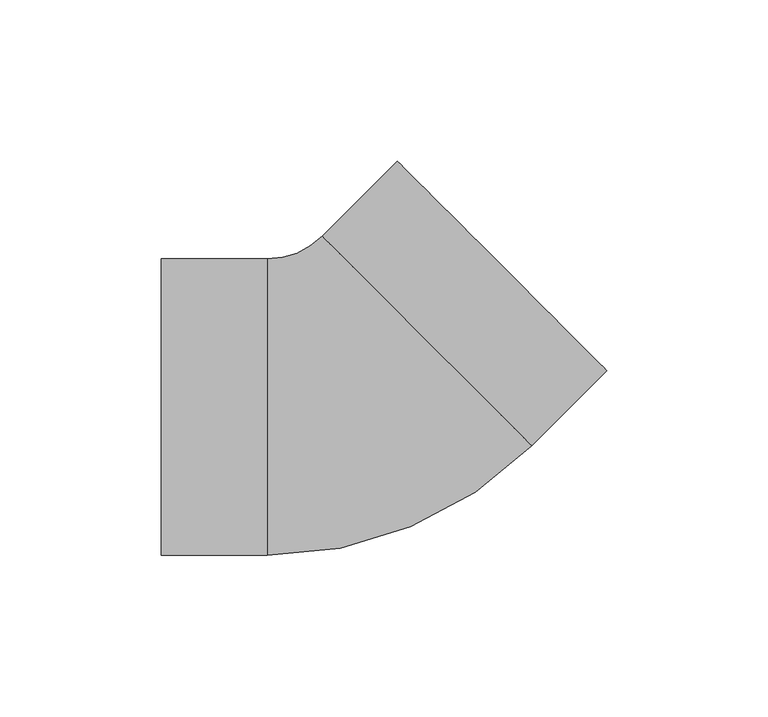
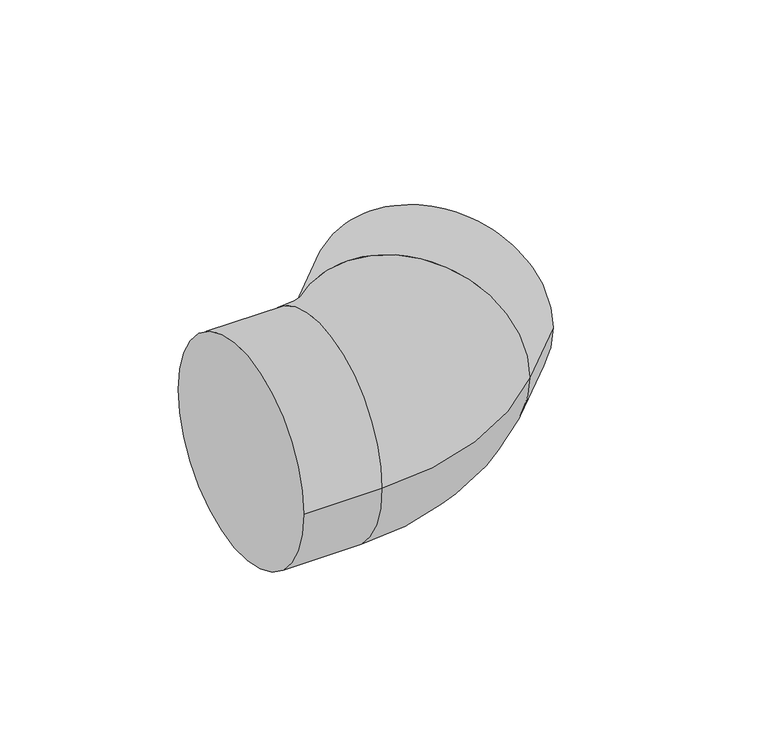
"""IFC4 building model written with IfcOpenShell, lengths in millimetres: pipe fitting geometry, PipeFitting_HTA_CPVC_Elbows : 75mm x 45°."""

from ifc_helpers import new_model, si_unit, point, frame, origin, place, context, project, spatial, circle_curve, ellipse_curve, trimmed, source, transform, mapped, element, save
from ifc_brep_helpers import plane_surface, cylinder_surface, revolved_surface, advanced_brep


def pipe_fitting_9ead8a00(model_context):
    return source(origin(), model_context, "Body", "AdvancedBrep", [
        advanced_brep(
        [(-62.0, -46.0, 0.0), (-62.0, 46.0, 0.0), (-28.9949494, -46.0, 0.0), (-28.9949494, 46.0, 0.0), (-12.0243866, 53.0294373, 0.0), (53.0294373, -12.0243866, 0.0), (76.3675324, 11.3137085, 0.0), (11.3137085, 76.3675324, 0.0)],
        [
            (0, 1, circle_curve(frame((-62.0, 0.0, 0.0), z_axis=(-1.0, 0.0, 0.0), x_axis=(0.0, 1.0, 0.0)), 46.0)),
            (1, 0, circle_curve(frame((-62.0, 0.0, 0.0), z_axis=(-1.0, 0.0, 0.0), x_axis=(0.0, 1.0, 0.0)), 46.0)),
            (0, 2),
            (2, 3, circle_curve(frame((-28.9949494, 0.0, 0.0), z_axis=(-1.0, 0.0, 0.0), x_axis=(0.0, 1.0, 0.0)), 46.0)),
            (3, 1),
            (3, 2, circle_curve(frame((-28.9949494, 0.0, 0.0), z_axis=(-1.0, 0.0, 0.0), x_axis=(0.0, 1.0, 0.0)), 46.0)),
            (4, 3, circle_curve(frame((-28.9949494, 70.0, 0.0), z_axis=(0.0, 0.0, -1.0), x_axis=(0.0, -1.0, 0.0)), 24.0)),
            (2, 5, circle_curve(frame((-28.9949494, 70.0, 0.0), z_axis=(0.0, 0.0, 1.0), x_axis=(0.0, -1.0, 0.0)), 116.0)),
            (5, 4, circle_curve(frame((20.5025253, 20.5025253, 0.0), z_axis=(-0.7071067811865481, -0.7071067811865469, 0.0), x_axis=(-0.7071067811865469, 0.7071067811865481, 0.0)), 46.0)),
            (4, 5, circle_curve(frame((20.5025253, 20.5025253, 0.0), z_axis=(-0.7071067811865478, -0.7071067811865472, 0.0), x_axis=(-0.7071067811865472, 0.7071067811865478, 0.0)), 46.0)),
            (6, 7, circle_curve(frame((43.8406204, 43.8406204, 0.0), z_axis=(0.7071067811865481, 0.7071067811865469, 0.0), x_axis=(-0.7071067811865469, 0.7071067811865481, 0.0)), 46.0)),
            (7, 6, circle_curve(frame((43.8406204, 43.8406204, 0.0), z_axis=(0.7071067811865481, 0.7071067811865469, 0.0), x_axis=(-0.7071067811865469, 0.7071067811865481, 0.0)), 46.0)),
            (5, 6),
            (7, 4),
        ],
        [
            plane_surface(frame((-62.0, 0.0, 0.0), z_axis=(-1.0, 0.0, 0.0), x_axis=(0.0, 0.0, 1.0))),
            cylinder_surface(frame((-62.0, 0.0, 0.0), z_axis=(-1.0, 0.0, 0.0), x_axis=(0.0, 1.0, 0.0)), 46.0),
            revolved_surface(trimmed(ellipse_curve(frame((-28.9949494, 0.0, 0.0), z_axis=(-1.0, 0.0, 0.0), x_axis=(0.0, 1.0, 0.0)), 46.0, 46.0), [point((-28.9949494, -46.0, 0.0))], [point((-28.9949494, 46.0, 0.0))], True, "CARTESIAN"), (-28.9949494, 70.0, 0.0), (0.0, 0.0, 1.0)),
            revolved_surface(trimmed(ellipse_curve(frame((-28.9949494, 0.0, 0.0), z_axis=(-1.0, 0.0, 0.0), x_axis=(0.0, 1.0, 0.0)), 46.0, 46.0), [point((-28.9949494, 46.0, 0.0))], [point((-28.9949494, -46.0, 0.0))], True, "CARTESIAN"), (-28.9949494, 70.0, 0.0), (0.0, 0.0, 1.0)),
            plane_surface(frame((43.8406204, 43.8406204, 0.0), z_axis=(0.7071067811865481, 0.7071067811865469, 0.0), x_axis=(0.0, 0.0, 1.0))),
            cylinder_surface(frame((20.5025253, 20.5025253, 0.0), z_axis=(-0.7071067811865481, -0.7071067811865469, 0.0), x_axis=(-0.7071067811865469, 0.7071067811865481, 0.0)), 46.0),
        ],
        [
            (0, [[1, 2]]),
            (1, [[-1, 3, 4, 5]]),
            (1, [[-2, -5, 6, -3]]),
            (2, [[7, -4, 8, 9]]),
            (3, [[-8, -6, -7, 10]]),
            (4, [[11, 12]]),
            (5, [[-9, 13, -12, 14]]),
            (5, [[-10, -14, -11, -13]]),
        ],
    ),
    ])


if __name__ == "__main__":
    model = new_model("IFC4")
    model_context = context("Model", 3, world=origin())
    ifc_project = project(units=[si_unit("LENGTHUNIT", "METRE", prefix="MILLI")], contexts=[model_context])
    site = spatial("IfcSite", under=ifc_project)
    building = spatial("IfcBuilding", under=site)
    placement = place(None, origin())
    pipe_fitting_shape = pipe_fitting_9ead8a00(model_context)
    element("IfcPipeFitting", 1, ObjectType="PipeFitting_HTA_CPVC_Elbows : 75mm x 45°", at=placement, inside=building, context=model_context, shape_type="MappedRepresentation", body=[
        mapped(pipe_fitting_shape, transform((0.0, 0.0, 0.0), x_axis=(1.0, 0.0, 0.0), y_axis=(0.0, 1.0, 0.0), z_axis=(0.0, 0.0, 1.0))),
    ])
    save(model, "model.ifc")
